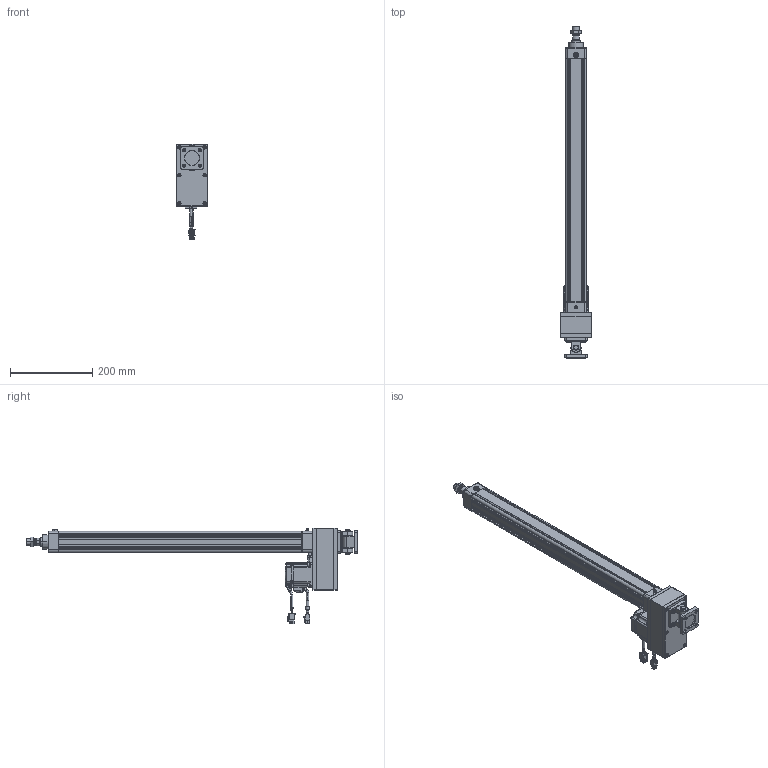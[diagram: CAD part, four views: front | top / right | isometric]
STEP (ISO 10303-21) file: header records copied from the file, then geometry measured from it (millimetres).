
FILE_DESCRIPTION((''),'2;1');
FILE_NAME('HE40-D-100_ASM','2020-05-27T',('ASUS20200'),(''),'CREO PARAMETRIC BY PTC INC, 2014190','CREO PARAMETRIC BY PTC INC, 2014190','');
FILE_SCHEMA(('CONFIG_CONTROL_DESIGN'));
Products named in the file (37): HE40-D-P-001-X1; HE40-D-P-002-X1; HE40-D-P-003-X1; 6200ZZ; SLM-01; YZ-M6X1; JDB202820; HE40-P-010-X1-200W; _MHMF022L1A2; _CABLE_MOTOR_BOTTOM_03; _CABLE_MOTOR_TOP_03; _MOTOR_CONNECTOR_2; _CABLE_BRAKE_BOTTOM_03; _CABLE_BRAKE_TOP_03; _MHMF_CONNECTOR_9_PIN_A6; MHMF022L1A2M2_1_ASM; MHMF022L1A2M2_ASM; JX5X5X20; TD-5; M5X20; LM-M6X1; M6X25; LM-M6-15; M6; HE40-P-012-X2; HE40-P-014-X1; M4X65; F-SE40CB; F-SE40CB-XD; F-SE40CB_ASM; F-SE40CA; M6X16; HE40-D-P-005-X1; HE40-D-P-004-X1; HE40-D-P-008-X1; LGLM-M6-22; HE40-D-100_ASM
Assembly tree (56 placements, depth 4):
  HE40-D-100_ASM
    HE40-D-P-001-X1
    HE40-D-P-002-X1
    HE40-D-P-003-X1
    6200ZZ
    SLM-01
    YZ-M6X1
    JDB202820
    HE40-P-010-X1-200W
    MHMF022L1A2M2_ASM
      MHMF022L1A2M2_1_ASM
        _MHMF022L1A2
        _CABLE_MOTOR_BOTTOM_03
        _CABLE_MOTOR_TOP_03
        _MOTOR_CONNECTOR_2
        _CABLE_BRAKE_BOTTOM_03
        _CABLE_BRAKE_TOP_03
        _MHMF_CONNECTOR_9_PIN_A6
    JX5X5X20
    TD-5  x4
    M5X20  x4
    LM-M6X1  x4
    M6X25
    LM-M6-15
    M6
    HE40-P-012-X2
    HE40-P-014-X1
    M4X65  x6
    F-SE40CB_ASM
      F-SE40CB
      F-SE40CB-XD
    F-SE40CA
    M6X16  x4
    HE40-D-P-005-X1
    HE40-D-P-004-X1
    HE40-D-P-008-X1
    LGLM-M6-22  x4
Bounding box: 75 x 807.5 x 232.7 mm (x, y, z)
Volume: 1362942.5 mm3; surface area: 527469.2 mm2
Topology: 53 solids, 84 shells, 3131 faces, 7428 edges, 4563 vertices
Faces by surface type: plane 1301, cylinder 866, cone 764, torus 162, sphere 34, bspline 4
Entity records: 80192 total; most frequent: CARTESIAN_POINT 15313, DIRECTION 14213, ORIENTED_EDGE 12716, EDGE_CURVE 6414, AXIS2_PLACEMENT_3D 5320, VERTEX_POINT 3977, VECTOR 3573, LINE 3573
